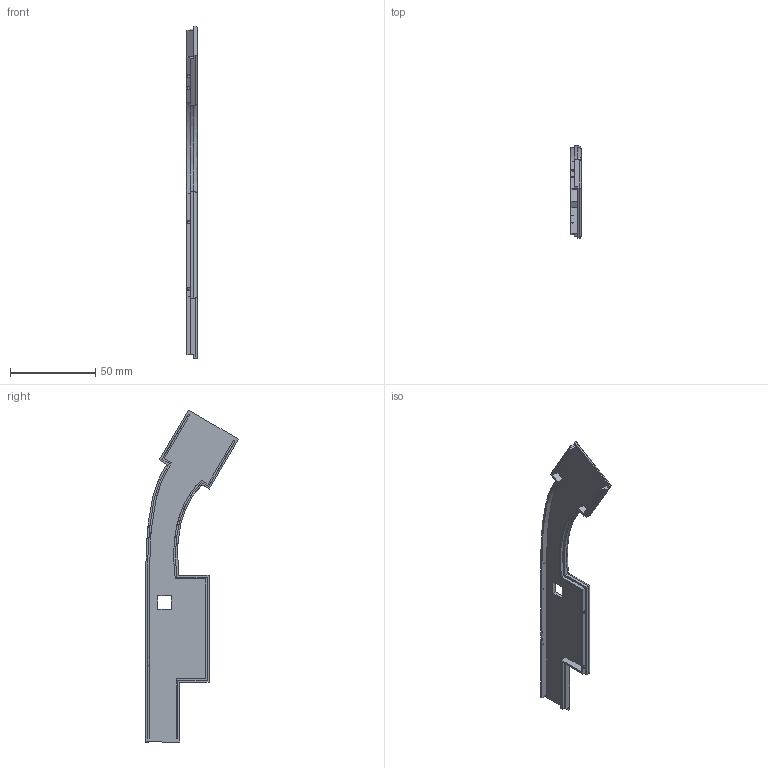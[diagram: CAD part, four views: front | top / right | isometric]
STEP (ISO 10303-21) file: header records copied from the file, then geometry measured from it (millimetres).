
FILE_DESCRIPTION(/* description */ (''),/* implementation_level */ '2;1');
FILE_NAME(/* name */ 'newglases_housing.step',/* time_stamp */ '2026-05-27T23:45:34+09:00',/* author */ (''),/* organization */ (''),/* preprocessor_version */ 'ST-DEVELOPER v20.1',/* originating_system */ 'Autodesk Translation Framework v15.8.0.0',/* authorisation */ '');
FILE_SCHEMA (('AUTOMOTIVE_DESIGN { 1 0 10303 214 3 1 1 }'));
Length unit declared in the file: millimetre
Products named in the file (1): newglases_housing
Bounding box: 6 x 54.53 x 195.28 mm (x, y, z)
Volume: 13065.5 mm3; surface area: 14902.4 mm2
Topology: 1 solids, 1 shells, 82 faces, 234 edges, 150 vertices
Faces by surface type: plane 53, cylinder 13, bspline 8, sphere 8
Entity records: 2924 total; most frequent: CARTESIAN_POINT 809, ORIENTED_EDGE 452, DIRECTION 396, EDGE_CURVE 226, LINE 166, VECTOR 166, VERTEX_POINT 150, AXIS2_PLACEMENT_3D 115
